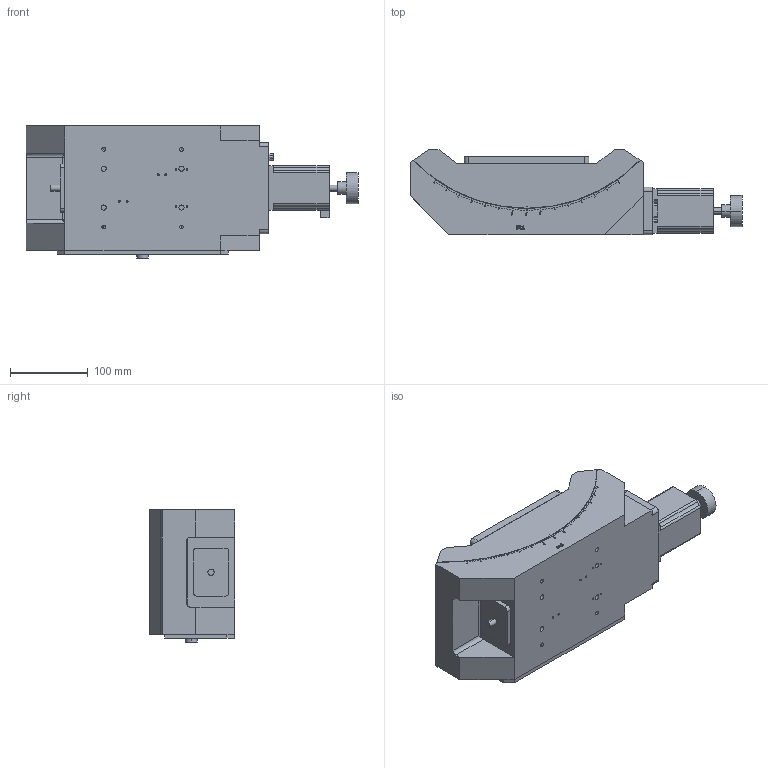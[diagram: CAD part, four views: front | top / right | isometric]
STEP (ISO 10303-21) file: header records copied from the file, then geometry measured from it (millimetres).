
FILE_DESCRIPTION (( 'STEP AP203' ), '1' );
FILE_NAME ('PT-GD313.STEP', '2025-09-05T05:38:18', ( '' ), ( '' ), 'SwSTEP 2.0', 'SolidWorks 2023', '' );
FILE_SCHEMA (( 'CONFIG_CONTROL_DESIGN' ));
Length unit declared in the file: millimetre
Products named in the file (1): PT-GD313
Bounding box: 427 x 110 x 170 mm (x, y, z)
Volume: 4959312.8 mm3; surface area: 422941 mm2
Topology: 3 solids, 3 shells, 969 faces, 2769 edges, 1824 vertices
Faces by surface type: plane 658, cylinder 164, bspline 123, cone 24
Entity records: 36797 total; most frequent: CARTESIAN_POINT 11767, ORIENTED_EDGE 5490, DIRECTION 4687, EDGE_CURVE 2745, LINE 1997, VECTOR 1997, VERTEX_POINT 1824, AXIS2_PLACEMENT_3D 1345
